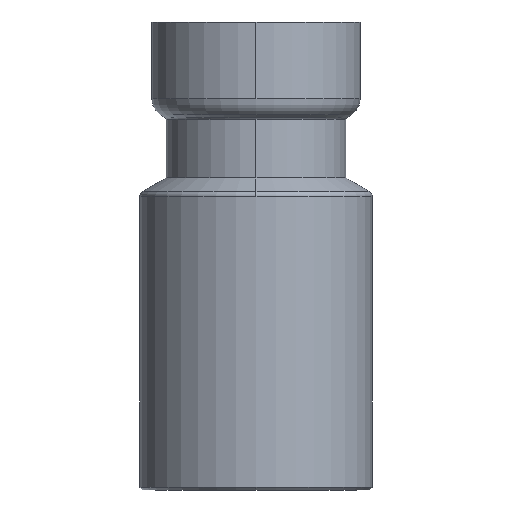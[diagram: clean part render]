
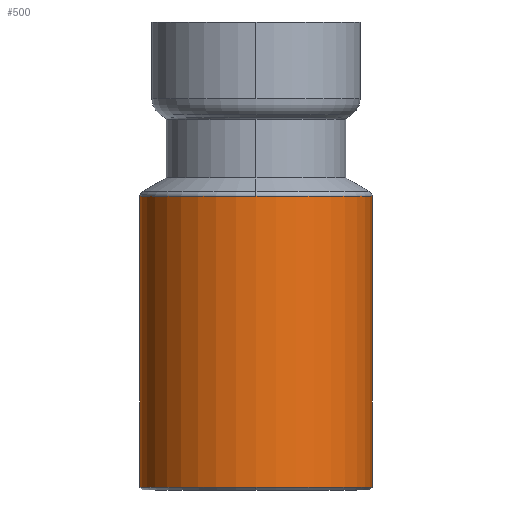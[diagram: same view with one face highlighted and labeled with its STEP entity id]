
A CAD part, front view. The second image highlights one B-rep face of the part: STEP entity #500.
In plain terms, the highlighted cylindrical face has radius 21.15 mm (diameter 42.3 mm), a partial arc.
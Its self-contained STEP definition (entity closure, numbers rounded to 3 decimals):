
#10=CARTESIAN_POINT('',(92.861,39.288,0.)
);
#20=DIRECTION('',(-1.,0.,0.));
#30=DIRECTION('',(0.,0.,1.));
#40=AXIS2_PLACEMENT_3D('',#10,#20,#30);
#50=CYLINDRICAL_SURFACE('',#40,21.15);
#60=CARTESIAN_POINT('',(92.861,39.288,-21.15));
#70=DIRECTION('',(-1.,0.,0.));
#80=VECTOR('',#70,1.);
#90=LINE('',#60,#80);
#100=CARTESIAN_POINT('',(87.543,39.288,-21.15));
#110=VERTEX_POINT('',#100);
#120=CARTESIAN_POINT('',(34.621,39.288,-21.15));
#130=VERTEX_POINT('',#120);
#140=EDGE_CURVE('',#110,#130,#90,.T.);
#150=ORIENTED_EDGE('',*,*,#140,.F.);
#160=CARTESIAN_POINT('',(34.621,39.288,0.
));
#170=DIRECTION('',(-1.,0.,0.));
#180=DIRECTION('',(0.,-1.,0.));
#190=AXIS2_PLACEMENT_3D('',#160,#170,#180);
#200=CIRCLE('',#190,21.15);
#210=CARTESIAN_POINT('',(34.621,18.138,0.
));
#220=VERTEX_POINT('',#210);
#230=EDGE_CURVE('',#130,#220,#200,.T.);
#240=ORIENTED_EDGE('',*,*,#230,.F.);
#250=CARTESIAN_POINT('',(34.621,39.288,21.15));
#260=VERTEX_POINT('',#250);
#270=EDGE_CURVE('',#220,#260,#200,.T.);
#280=ORIENTED_EDGE('',*,*,#270,.F.);
#290=CARTESIAN_POINT('',(92.861,39.288,21.15));
#300=DIRECTION('',(-1.,0.,0.));
#310=VECTOR('',#300,1.);
#320=LINE('',#290,#310);
#330=CARTESIAN_POINT('',(87.543,39.288,21.15));
#340=VERTEX_POINT('',#330);
#350=EDGE_CURVE('',#340,#260,#320,.T.);
#360=ORIENTED_EDGE('',*,*,#350,.T.);
#370=CARTESIAN_POINT('',(87.543,39.288,
0.));
#380=DIRECTION('',(-1.,0.,0.));
#390=DIRECTION('',(0.,-1.,0.));
#400=AXIS2_PLACEMENT_3D('',#370,#380,#390);
#410=CIRCLE('',#400,21.15);
#420=CARTESIAN_POINT('',(87.543,18.138,
0.));
#430=VERTEX_POINT('',#420);
#440=EDGE_CURVE('',#430,#340,#410,.T.);
#450=ORIENTED_EDGE('',*,*,#440,.T.);
#460=EDGE_CURVE('',#110,#430,#410,.T.);
#470=ORIENTED_EDGE('',*,*,#460,.T.);
#480=EDGE_LOOP('',(#470,#450,#360,#280,#240,#150));
#490=FACE_OUTER_BOUND('',#480,.T.);
#500=ADVANCED_FACE('',(#490),#50,.T.);
